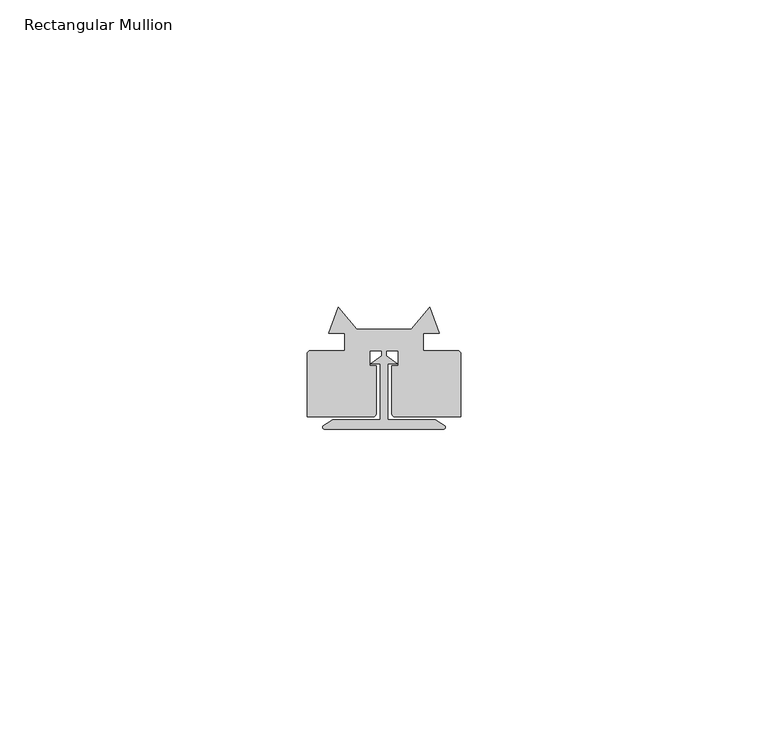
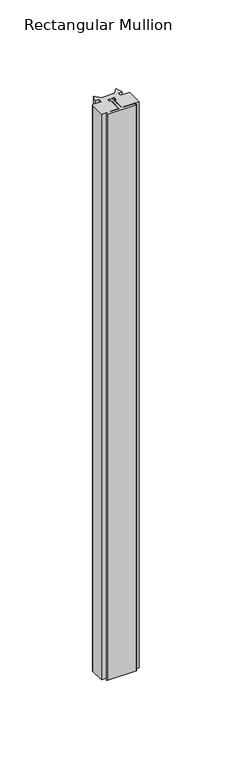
"""IFC4 building model written with IfcOpenShell, lengths in millimetres: member geometry, Rectangular Mullion : QO-V-01_01 Joint."""

from ifc_helpers import new_model, si_unit, point, frame, frame_2d, origin, place, context, project, spatial, polyline, circle_curve, trimmed, segment, composite_curve, outline, extrude, source, transform, mapped, element, save


def rectangular_mullion_fb64a6f4(model_context):
    return source(origin(), model_context, "Body", "SweptSolid", [
        extrude(outline(composite_curve([segment(polyline([(0.6475876, 34.6160805), (0.6475876, 25.5027713), (8.3158634, 25.5027713), (9.8478388, 24.5783623)]), True, "CONTINUOUS"), segment(trimmed(circle_curve(frame_2d((9.6876801, 24.3129396)), 0.31), [point((9.8478388, 24.5783623))], [point((9.6876801, 24.0029396))], False, "CARTESIAN"), True, "CONTINUOUS"), segment(polyline([(9.6876801, 24.0029396), (-9.6923428, 24.0029396)]), True, "CONTINUOUS"), segment(trimmed(circle_curve(frame_2d((-9.6923428, 24.3129396)), 0.31), [point((-9.6923428, 24.0029396))], [point((-9.8525015, 24.5783623))], False, "CARTESIAN"), True, "CONTINUOUS"), segment(polyline([(-9.8525015, 24.5783623), (-8.3205261, 25.5027713), (-0.6524124, 25.5027713), (-0.6524124, 34.6160805), (-2.1674381, 34.6160805), (-0.3546092, 35.9759407), (-0.3546092, 36.7759407), (-2.3561345, 36.7759407), (-2.3561345, 34.317153), (-1.2879019, 34.317153), (-1.2879019, 26.5392087)]), True, "CONTINUOUS"), segment(trimmed(circle_curve(frame_2d((-1.7872786, 26.5150144)), 0.4999625), [point((-1.2879019, 26.5392087))], [point((-1.7872786, 26.0150519))], False, "CARTESIAN"), True, "CONTINUOUS"), segment(polyline([(-1.7872786, 26.0150519), (-12.5010847, 26.0150519), (-12.5010847, 36.190378)]), True, "CONTINUOUS"), segment(trimmed(circle_curve(frame_2d((-11.9010847, 36.190378)), 0.6), [point((-12.5010847, 36.190378))], [point((-11.9010847, 36.790378))], False, "CARTESIAN"), True, "CONTINUOUS"), segment(polyline([(-11.9010847, 36.790378), (-6.362561, 36.790378), (-6.362561, 39.6058207), (-8.961162, 39.6058207), (-7.4224126, 43.8493822), (-4.3991903, 40.3004498), (4.3943655, 40.3004498), (7.4175879, 43.8493822), (8.9563372, 39.6058207), (6.3577362, 39.6058207), (6.3577362, 36.790378), (11.8962599, 36.790378)]), True, "CONTINUOUS"), segment(trimmed(circle_curve(frame_2d((11.8962599, 36.190378)), 0.6), [point((11.8962599, 36.790378))], [point((12.4962599, 36.190378))], False, "CARTESIAN"), True, "CONTINUOUS"), segment(polyline([(12.4962599, 36.190378), (12.4962599, 26.0150519), (1.7824538, 26.0150519)]), True, "CONTINUOUS"), segment(trimmed(circle_curve(frame_2d((1.7824538, 26.5150144)), 0.4999625), [point((1.7824538, 26.0150519))], [point((1.2830771, 26.5392087))], False, "CARTESIAN"), True, "CONTINUOUS"), segment(polyline([(1.2830771, 26.5392087), (1.2830771, 34.317153), (2.3513097, 34.317153), (2.3513097, 36.7759407), (0.3497844, 36.7759407), (0.3497844, 35.9759407), (2.1626133, 34.6160805), (0.6475876, 34.6160805)]), True, "CONTINUOUS")], self_intersect=False)), frame((0.0, 0.0, -400.0), z_axis=(0.0, 0.0, 1.0), x_axis=(1.0, 0.0, 0.0)), (0.0, 0.0, 1.0), 400.0),
    ])


if __name__ == "__main__":
    model = new_model("IFC4")
    model_context = context("Model", 3, world=origin())
    ifc_project = project(units=[si_unit("LENGTHUNIT", "METRE", prefix="MILLI")], contexts=[model_context])
    site = spatial("IfcSite", under=ifc_project)
    building = spatial("IfcBuilding", under=site)
    placement = place(None, origin())
    rectangular_mullion_shape = rectangular_mullion_fb64a6f4(model_context)
    element("IfcMember", 1, ObjectType="Rectangular Mullion : QO-V-01_01 Joint", at=placement, inside=building, context=model_context, shape_type="MappedRepresentation", body=[
        mapped(rectangular_mullion_shape, transform((0.0, 0.0, 0.0), x_axis=(1.0, 0.0, 0.0), y_axis=(0.0, 1.0, 0.0), z_axis=(0.0, 0.0, 1.0))),
    ])
    save(model, "model.ifc")
